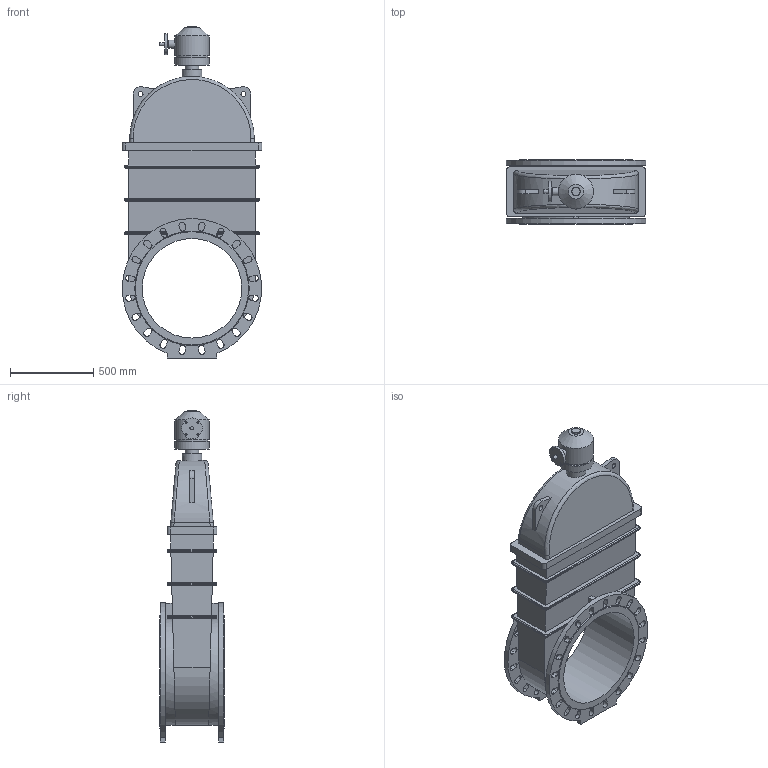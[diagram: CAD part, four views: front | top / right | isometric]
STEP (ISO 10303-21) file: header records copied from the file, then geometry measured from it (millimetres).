
FILE_DESCRIPTION(('STEP AP203'), '1');
FILE_NAME('Çàäâèæêà 47GV.Z DN600 PN10_PN16 + ðåäóêòîð ñ âõîäíûì ôëàíöåì', '', ('UNSPECIFIED'), ('UNSPECIFIED'), 'ASCON STEP Converter 1.6', 'ASCON Math Kernel', '');
FILE_SCHEMA(('CONFIG_CONTROL_DESIGN'));
Length unit declared in the file: millimetre
Bounding box: 840 x 390 x 2000 mm (x, y, z)
Volume: 226261041.9 mm3; surface area: 5388692.5 mm2
Topology: 1 solids, 1 shells, 369 faces, 956 edges, 619 vertices
Faces by surface type: plane 178, cylinder 162, bspline 26, cone 3
Full cylindrical faces by diameter (mm): 12 x4, 17.5 x4, 22 x4, 30 x3, 50 x2, 80 x1, 120 x1, 125 x1, 190 x1, 210 x2, 600 x1
Entity records: 16775 total; most frequent: CARTESIAN_POINT 4684, ORIENTED_EDGE 1858, DIRECTION 1846, EDGE_CURVE 929, AXIS2_PLACEMENT_3D 639, VERTEX_POINT 619, LINE 568, VECTOR 568
